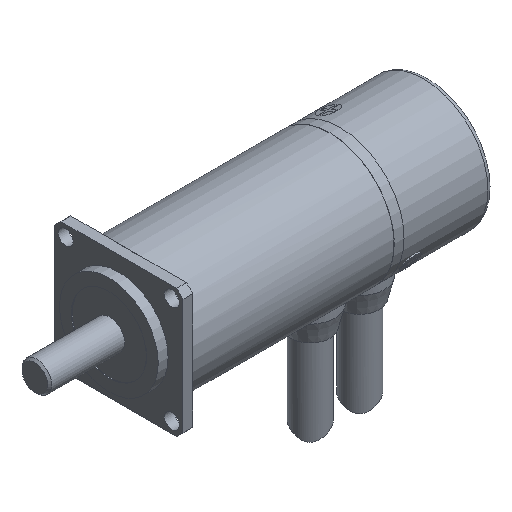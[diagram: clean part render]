
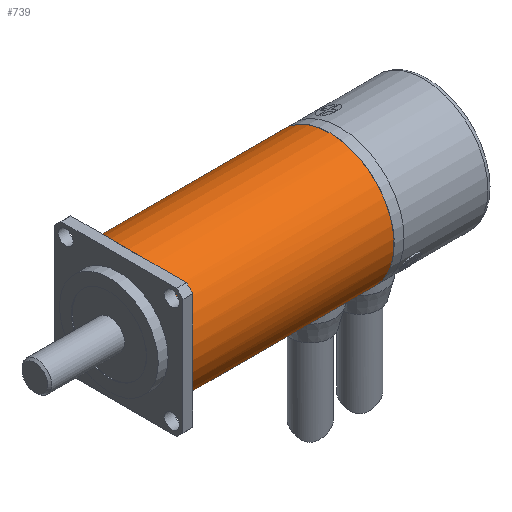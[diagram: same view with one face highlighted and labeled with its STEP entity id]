
A CAD part, isometric view. The second image highlights one B-rep face of the part: STEP entity #739.
In plain terms, the highlighted cylindrical face has radius 6.5 mm (diameter 13 mm), a full revolution.
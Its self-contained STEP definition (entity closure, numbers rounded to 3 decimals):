
#739=ADVANCED_FACE('',(#1070,#1071),#1072,.T.);
#1070=FACE_OUTER_BOUND('',#1448,.T.);
#1071=FACE_OUTER_BOUND('',#1449,.T.);
#1072=CYLINDRICAL_SURFACE('',#1450,6.5);
#1448=EDGE_LOOP('',(#1809,#1810,#1811,#1812));
#1449=EDGE_LOOP('',(#1813,#1814,#1815,#1816));
#1450=AXIS2_PLACEMENT_3D('',#1817,#1818,#1819);
#1809=ORIENTED_EDGE('',*,*,#2551,.T.);
#1810=ORIENTED_EDGE('',*,*,#2552,.T.);
#1811=ORIENTED_EDGE('',*,*,#2553,.T.);
#1812=ORIENTED_EDGE('',*,*,#2554,.T.);
#1813=ORIENTED_EDGE('',*,*,#2549,.T.);
#1814=ORIENTED_EDGE('',*,*,#2555,.T.);
#1815=ORIENTED_EDGE('',*,*,#2556,.T.);
#1816=ORIENTED_EDGE('',*,*,#2557,.T.);
#1817=CARTESIAN_POINT('',(0.0,0.0,0.0));
#1818=DIRECTION('',(-1.0,0.0,0.0));
#1819=DIRECTION('',(0.0,0.0,1.0));
#2549=EDGE_CURVE('',#2843,#2847,#2849,.T.);
#2551=EDGE_CURVE('',#2851,#2852,#2853,.F.);
#2552=EDGE_CURVE('',#2852,#2854,#2855,.F.);
#2553=EDGE_CURVE('',#2854,#2856,#2857,.F.);
#2554=EDGE_CURVE('',#2856,#2851,#2858,.F.);
#2555=EDGE_CURVE('',#2847,#2859,#2860,.F.);
#2556=EDGE_CURVE('',#2859,#2861,#2862,.T.);
#2557=EDGE_CURVE('',#2861,#2843,#2863,.T.);
#2843=VERTEX_POINT('',#3266);
#2847=VERTEX_POINT('',#3300);
#2849=B_SPLINE_CURVE_WITH_KNOTS('',3,(#3303,#3304,#3305,#3306,#3307,#3308,#3309,#3310,#3311,#3312,#3313,#3314,#3315,#3316,#3317,#3318,#3319,#3320,#3321,#3322,#3323,#3324,#3325,#3326,#3327,#3328,#3329,#3330,#3331,#3332),.UNSPECIFIED.,.F.,.F.,(4,2,2,2,2,2,2,2,2,2,2,2,2,2,4),(0.0,0.,0.001,0.001,0.002,0.002,0.003,0.003,0.004,0.004,0.005,0.005,0.006,0.006,0.006),.UNSPECIFIED.);
#2851=VERTEX_POINT('',#3334);
#2852=VERTEX_POINT('',#3335);
#2853=CIRCLE('',#3336,6.5);
#2854=VERTEX_POINT('',#3337);
#2855=CIRCLE('',#3338,6.5);
#2856=VERTEX_POINT('',#3339);
#2857=CIRCLE('',#3340,6.5);
#2858=CIRCLE('',#3341,6.5);
#2859=VERTEX_POINT('',#3342);
#2860=LINE('',#3343,#3344);
#2861=VERTEX_POINT('',#3345);
#2862=CIRCLE('',#3346,6.5);
#2863=LINE('',#3347,#3348);
#3266=CARTESIAN_POINT('',(20.4,2.0,-6.185));
#3300=CARTESIAN_POINT('',(20.4,-2.0,-6.185));
#3303=CARTESIAN_POINT('',(20.4,2.0,-6.185));
#3304=CARTESIAN_POINT('',(20.267,2.0,-6.185));
#3305=CARTESIAN_POINT('',(20.136,1.987,-6.189));
#3306=CARTESIAN_POINT('',(19.88,1.936,-6.205));
#3307=CARTESIAN_POINT('',(19.752,1.897,-6.217));
#3308=CARTESIAN_POINT('',(19.511,1.796,-6.247));
#3309=CARTESIAN_POINT('',(19.396,1.735,-6.265));
#3310=CARTESIAN_POINT('',(19.179,1.59,-6.303));
#3311=CARTESIAN_POINT('',(19.078,1.506,-6.324));
#3312=CARTESIAN_POINT('',(18.803,1.231,-6.385));
#3313=CARTESIAN_POINT('',(18.654,1.009,-6.426));
#3314=CARTESIAN_POINT('',(18.504,0.649,-6.469));
#3315=CARTESIAN_POINT('',(18.465,0.522,-6.48));
#3316=CARTESIAN_POINT('',(18.413,0.264,-6.496));
#3317=CARTESIAN_POINT('',(18.4,0.133,-6.5));
#3318=CARTESIAN_POINT('',(18.4,-0.129,-6.5));
#3319=CARTESIAN_POINT('',(18.413,-0.263,-6.496));
#3320=CARTESIAN_POINT('',(18.464,-0.52,-6.48));
#3321=CARTESIAN_POINT('',(18.502,-0.645,-6.469));
#3322=CARTESIAN_POINT('',(18.654,-1.01,-6.426));
#3323=CARTESIAN_POINT('',(18.801,-1.229,-6.386));
#3324=CARTESIAN_POINT('',(19.078,-1.506,-6.324));
#3325=CARTESIAN_POINT('',(19.178,-1.588,-6.303));
#3326=CARTESIAN_POINT('',(19.393,-1.733,-6.265));
#3327=CARTESIAN_POINT('',(19.51,-1.796,-6.247));
#3328=CARTESIAN_POINT('',(19.751,-1.896,-6.217));
#3329=CARTESIAN_POINT('',(19.876,-1.935,-6.205));
#3330=CARTESIAN_POINT('',(20.134,-1.987,-6.189));
#3331=CARTESIAN_POINT('',(20.267,-2.0,-6.185));
#3332=CARTESIAN_POINT('',(20.4,-2.0,-6.185));
#3334=CARTESIAN_POINT('',(2.0,6.5,0.));
#3335=CARTESIAN_POINT('',(2.0,0.,6.5));
#3336=AXIS2_PLACEMENT_3D('',#3961,#3962,#3963);
#3337=CARTESIAN_POINT('',(2.0,-6.5,0.));
#3338=AXIS2_PLACEMENT_3D('',#3964,#3965,#3966);
#3339=CARTESIAN_POINT('',(2.0,0.0,-6.5));
#3340=AXIS2_PLACEMENT_3D('',#3967,#3968,#3969);
#3341=AXIS2_PLACEMENT_3D('',#3970,#3971,#3972);
#3342=CARTESIAN_POINT('',(22.4,-2.0,-6.185));
#3343=CARTESIAN_POINT('',(0.0,-2.0,-6.185));
#3344=VECTOR('',#3973,1.0);
#3345=CARTESIAN_POINT('',(22.4,2.0,-6.185));
#3346=AXIS2_PLACEMENT_3D('',#3974,#3975,#3976);
#3347=CARTESIAN_POINT('',(0.,2.0,-6.185));
#3348=VECTOR('',#3977,1.0);
#3961=CARTESIAN_POINT('',(2.0,0.0,0.0));
#3962=DIRECTION('',(-1.0,0.0,0.0));
#3963=DIRECTION('',(0.0,0.0,1.0));
#3964=CARTESIAN_POINT('',(2.0,0.0,0.0));
#3965=DIRECTION('',(-1.0,0.0,0.0));
#3966=DIRECTION('',(0.0,0.0,1.0));
#3967=CARTESIAN_POINT('',(2.0,0.0,0.0));
#3968=DIRECTION('',(-1.0,0.0,0.0));
#3969=DIRECTION('',(0.0,0.0,1.0));
#3970=CARTESIAN_POINT('',(2.0,0.0,0.0));
#3971=DIRECTION('',(-1.0,0.0,0.0));
#3972=DIRECTION('',(0.0,0.0,1.0));
#3973=DIRECTION('',(-1.0,0.0,0.0));
#3974=CARTESIAN_POINT('',(22.4,0.0,0.0));
#3975=DIRECTION('',(-1.0,0.0,0.0));
#3976=DIRECTION('',(0.0,0.0,1.0));
#3977=DIRECTION('',(-1.0,0.0,0.0));
